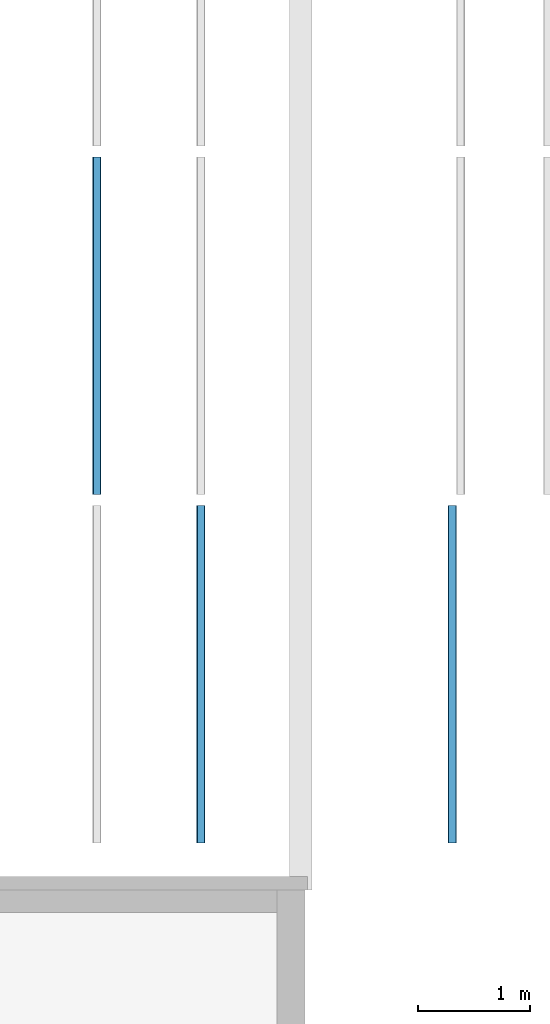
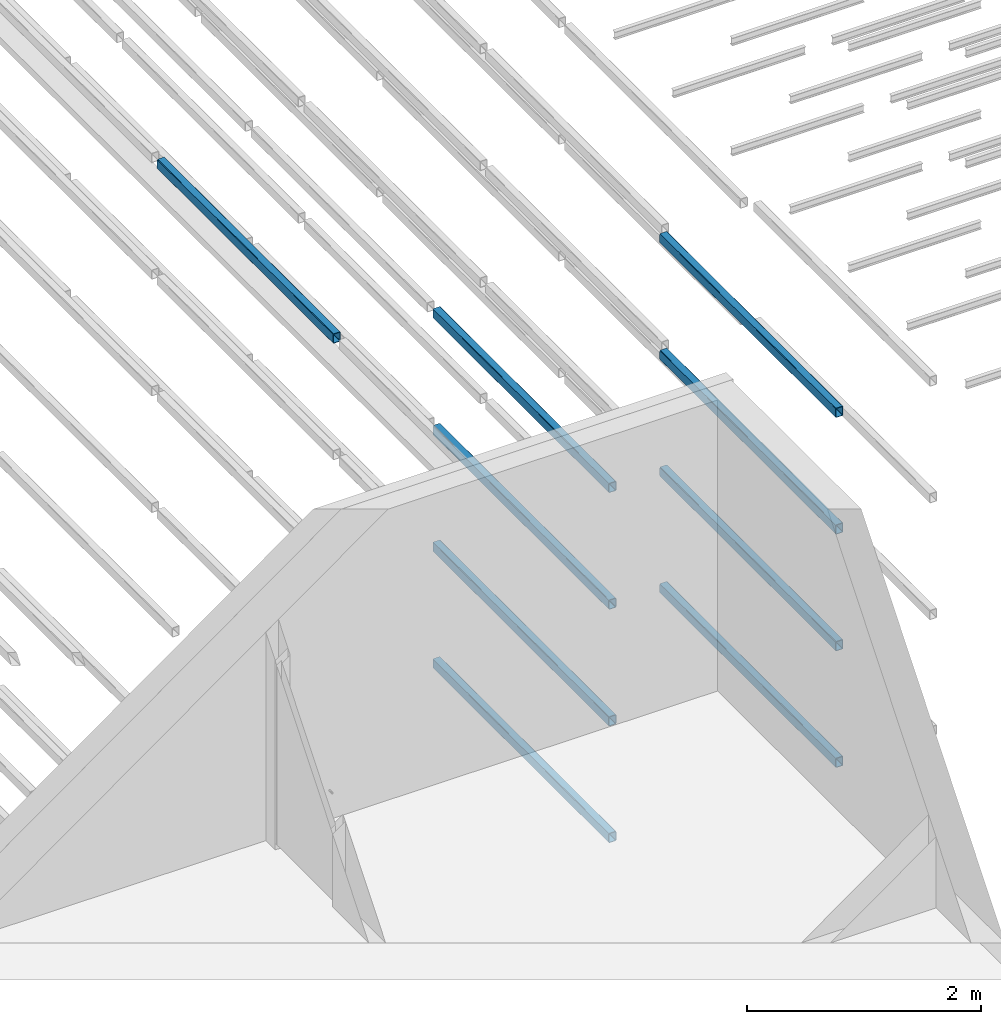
# One storey, part 31 of 290: 9 beams.
"""IFC2X3 building model written with IfcOpenShell, lengths in metres."""

from ifc_helpers import new_model, entity, si_unit, converted_unit, derived_unit, direction, frame, frame_2d, origin, place, context, subcontext, project, spatial, polyline, circle_curve, parameter, trimmed, segment, composite_curve, outline, extrude, material, type_object, element, save


model = new_model("IFC2X3")

# Units and contexts
model_context = context("Model", 3, precision=1e-05, world=origin(), true_north=direction((6.12303176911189e-17, 1.0)))
body_context = subcontext(model_context, "Body", "Model", "MODEL_VIEW")
ifc_project = project(units=[si_unit("LENGTHUNIT", "METRE"), si_unit("AREAUNIT", "SQUARE_METRE"), si_unit("VOLUMEUNIT", "CUBIC_METRE"), converted_unit("PLANEANGLEUNIT", "DEGREE", entity("IfcRatioMeasure", 0.0174532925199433), si_unit("PLANEANGLEUNIT", "RADIAN"), dimensions=[0, 0, 0, 0, 0, 0, 0]), si_unit("MASSUNIT", "GRAM", prefix="KILO"), derived_unit("MASSDENSITYUNIT", [(si_unit("MASSUNIT", "GRAM", prefix="KILO"), 1), (si_unit("LENGTHUNIT", "METRE"), -3)]), derived_unit("MOMENTOFINERTIAUNIT", [(si_unit("LENGTHUNIT", "METRE"), 4)]), si_unit("TIMEUNIT", "SECOND"), si_unit("FREQUENCYUNIT", "HERTZ"), si_unit("THERMODYNAMICTEMPERATUREUNIT", "DEGREE_CELSIUS"), derived_unit("THERMALTRANSMITTANCEUNIT", [(si_unit("MASSUNIT", "GRAM", prefix="KILO"), 1), (si_unit("THERMODYNAMICTEMPERATUREUNIT", "KELVIN"), -1), (si_unit("TIMEUNIT", "SECOND"), -3)]), derived_unit("VOLUMETRICFLOWRATEUNIT", [(si_unit("LENGTHUNIT", "METRE"), 3), (si_unit("TIMEUNIT", "SECOND"), -1)]), si_unit("ELECTRICCURRENTUNIT", "AMPERE"), si_unit("ELECTRICVOLTAGEUNIT", "VOLT"), si_unit("POWERUNIT", "WATT"), si_unit("FORCEUNIT", "NEWTON", prefix="KILO"), si_unit("ILLUMINANCEUNIT", "LUX"), si_unit("LUMINOUSFLUXUNIT", "LUMEN"), si_unit("LUMINOUSINTENSITYUNIT", "CANDELA"), derived_unit("USERDEFINED", [(si_unit("MASSUNIT", "GRAM", prefix="KILO"), -1), (si_unit("LENGTHUNIT", "METRE"), -2), (si_unit("TIMEUNIT", "SECOND"), 3), (si_unit("LUMINOUSFLUXUNIT", "LUMEN"), 1)]), derived_unit("LINEARVELOCITYUNIT", [(si_unit("LENGTHUNIT", "METRE"), 1), (si_unit("TIMEUNIT", "SECOND"), -1)]), si_unit("PRESSUREUNIT", "PASCAL"), derived_unit("USERDEFINED", [(si_unit("LENGTHUNIT", "METRE"), -2), (si_unit("MASSUNIT", "GRAM", prefix="KILO"), 1), (si_unit("TIMEUNIT", "SECOND"), -2)]), derived_unit("LINEARFORCEUNIT", [(si_unit("MASSUNIT", "GRAM", prefix="KILO"), 1), (si_unit("LENGTHUNIT", "METRE"), 1), (si_unit("TIMEUNIT", "SECOND"), -2), (si_unit("LENGTHUNIT", "METRE"), -1)]), derived_unit("PLANARFORCEUNIT", [(si_unit("MASSUNIT", "GRAM", prefix="KILO"), 1), (si_unit("LENGTHUNIT", "METRE"), 1), (si_unit("TIMEUNIT", "SECOND"), -2), (si_unit("LENGTHUNIT", "METRE"), -2)])], contexts=[model_context])

# Site, building, storey
site_placement = place(None, origin())
site = spatial("IfcSite", under=ifc_project, at=site_placement, Name="Default", CompositionType="ELEMENT")
building_placement = place(site_placement, origin())
building = spatial("IfcBuilding", under=site, at=building_placement, CompositionType="ELEMENT")
storey_placement = place(building_placement, frame((0.0, 0.0, 4.0)))
storey = spatial("IfcBuildingStorey", under=building, at=storey_placement, Name="01_OG", CompositionType="ELEMENT", Elevation=4.0)

# Beams
ifc_material = material(Name="Metall - Baustahl S235 blau")
beam_type = type_object("IfcBeamType", Name="RHS Träger (EN 10219-2):RHS 100 x 75 x 5", PredefinedType="NOTDEFINED")
beam_1_placement = place(storey_placement, frame((-178.465111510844, 24.048088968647, 0.0150000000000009), z_axis=(0.0, 0.0, 1.0), x_axis=(0.0, 1.0, 0.0)))
element("IfcBeam", 1, at=beam_1_placement, inside=storey, type_object=beam_type, material=ifc_material, Name="RHS Träger (EN 10219-2):RHS 100 x 75 x 5", ObjectType="RHS Träger (EN 10219-2):RHS 100 x 75 x 5", context=body_context, shape_type="SweptSolid", body=[
    extrude(outline(composite_curve([segment(polyline([(-0.0400000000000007, -0.0374999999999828), (0.0399999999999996, -0.0374999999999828)]), True, "CONTINUOUS"), segment(trimmed(circle_curve(frame_2d((0.0399999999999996, -0.0274999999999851), x_axis=(0.0, 1.0)), 0.01), [parameter(180.0)], [parameter(270.0)], True, "PARAMETER"), True, "CONTINUOUS"), segment(polyline([(0.0499999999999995, -0.0274999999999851), (0.0499999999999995, 0.0274999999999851)]), True, "CONTINUOUS"), segment(trimmed(circle_curve(frame_2d((0.0399999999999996, 0.0274999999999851), x_axis=(0.0, 1.0)), 0.01), [parameter(270.0)], [parameter(4.07110999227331e-13)], True, "PARAMETER"), True, "CONTINUOUS"), segment(polyline([(0.0399999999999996, 0.0375000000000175), (-0.0400000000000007, 0.0375000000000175)]), True, "CONTINUOUS"), segment(trimmed(circle_curve(frame_2d((-0.0400000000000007, 0.0274999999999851), x_axis=(0.0, 1.0)), 0.01), [parameter(360.0)], [parameter(90.0000000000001)], True, "PARAMETER"), True, "CONTINUOUS"), segment(polyline([(-0.0500000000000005, 0.0274999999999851), (-0.0500000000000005, -0.0274999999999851)]), True, "CONTINUOUS"), segment(trimmed(circle_curve(frame_2d((-0.0400000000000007, -0.0274999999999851), x_axis=(0.0, 1.0)), 0.01), [parameter(90.0000000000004)], [parameter(180.0)], True, "PARAMETER"), True, "CONTINUOUS")], self_intersect=False), holes=[composite_curve([segment(trimmed(circle_curve(frame_2d((-0.0400000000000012, 0.0274999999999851), x_axis=(0.0, 1.0)), 0.005), [parameter(360.0)], [parameter(89.9999999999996)], True, "PARAMETER"), False, "CONTINUOUS"), segment(polyline([(-0.0400000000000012, 0.0325000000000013), (0.0399999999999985, 0.0325000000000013)]), True, "CONTINUOUS"), segment(trimmed(circle_curve(frame_2d((0.0399999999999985, 0.0274999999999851), x_axis=(0.0, 1.0)), 0.005), [parameter(270.0)], [parameter(0.0)], True, "PARAMETER"), False, "CONTINUOUS"), segment(polyline([(0.0449999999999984, 0.0274999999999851), (0.0449999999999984, -0.0274999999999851)]), True, "CONTINUOUS"), segment(trimmed(circle_curve(frame_2d((0.0399999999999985, -0.0274999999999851), x_axis=(0.0, 1.0)), 0.005), [parameter(180.0)], [parameter(269.999999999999)], True, "PARAMETER"), False, "CONTINUOUS"), segment(polyline([(0.0399999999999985, -0.0325000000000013), (-0.0400000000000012, -0.0325000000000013)]), True, "CONTINUOUS"), segment(trimmed(circle_curve(frame_2d((-0.0400000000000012, -0.0274999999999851), x_axis=(0.0, 1.0)), 0.005), [parameter(90.0000000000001)], [parameter(180.0)], True, "PARAMETER"), False, "CONTINUOUS"), segment(polyline([(-0.0450000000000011, -0.0274999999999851), (-0.0450000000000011, 0.0274999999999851)]), True, "CONTINUOUS")], self_intersect=False)]), frame((9.99999999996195e-05, -0.0375000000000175, -0.0500000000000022), z_axis=(1.0, 0.0, 0.0), x_axis=(0.0, 0.0, -1.0)), (0.0, 0.0, 1.0), 2.9998),
])
beam_2_placement = place(storey_placement, frame((-178.465111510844, 24.048088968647, 1.23), z_axis=(0.0, 0.0, 1.0), x_axis=(0.0, 1.0, 0.0)))
element("IfcBeam", 2, at=beam_2_placement, inside=storey, type_object=beam_type, material=ifc_material, Name="RHS Träger (EN 10219-2):RHS 100 x 75 x 5", ObjectType="RHS Träger (EN 10219-2):RHS 100 x 75 x 5", context=body_context, shape_type="SweptSolid", body=[
    extrude(outline(composite_curve([segment(polyline([(-0.0399999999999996, -0.0374999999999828), (0.0399999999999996, -0.0374999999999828)]), True, "CONTINUOUS"), segment(trimmed(circle_curve(frame_2d((0.0399999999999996, -0.0274999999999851), x_axis=(0.0, 1.0)), 0.01), [parameter(180.0)], [parameter(270.0)], True, "PARAMETER"), True, "CONTINUOUS"), segment(polyline([(0.0500000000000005, -0.0274999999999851), (0.0500000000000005, 0.0274999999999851)]), True, "CONTINUOUS"), segment(trimmed(circle_curve(frame_2d((0.0399999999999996, 0.0274999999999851), x_axis=(0.0, 1.0)), 0.01), [parameter(270.0)], [parameter(4.07110999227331e-13)], True, "PARAMETER"), True, "CONTINUOUS"), segment(polyline([(0.0399999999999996, 0.0375000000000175), (-0.0399999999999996, 0.0375000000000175)]), True, "CONTINUOUS"), segment(trimmed(circle_curve(frame_2d((-0.0399999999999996, 0.0274999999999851), x_axis=(0.0, 1.0)), 0.01), [parameter(360.0)], [parameter(90.0000000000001)], True, "PARAMETER"), True, "CONTINUOUS"), segment(polyline([(-0.0499999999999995, 0.0274999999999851), (-0.0499999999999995, -0.0274999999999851)]), True, "CONTINUOUS"), segment(trimmed(circle_curve(frame_2d((-0.0399999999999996, -0.0274999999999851), x_axis=(0.0, 1.0)), 0.01), [parameter(90.0000000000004)], [parameter(180.0)], True, "PARAMETER"), True, "CONTINUOUS")], self_intersect=False), holes=[composite_curve([segment(trimmed(circle_curve(frame_2d((-0.0400000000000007, 0.0274999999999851), x_axis=(0.0, 1.0)), 0.005), [parameter(360.0)], [parameter(89.9999999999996)], True, "PARAMETER"), False, "CONTINUOUS"), segment(polyline([(-0.0400000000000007, 0.0325000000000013), (0.0399999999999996, 0.0325000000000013)]), True, "CONTINUOUS"), segment(trimmed(circle_curve(frame_2d((0.0399999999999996, 0.0274999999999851), x_axis=(0.0, 1.0)), 0.005), [parameter(270.0)], [parameter(0.0)], True, "PARAMETER"), False, "CONTINUOUS"), segment(polyline([(0.0449999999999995, 0.0274999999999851), (0.0449999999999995, -0.0274999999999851)]), True, "CONTINUOUS"), segment(trimmed(circle_curve(frame_2d((0.0399999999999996, -0.0274999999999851), x_axis=(0.0, 1.0)), 0.005), [parameter(180.0)], [parameter(269.999999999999)], True, "PARAMETER"), False, "CONTINUOUS"), segment(polyline([(0.0399999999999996, -0.0325000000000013), (-0.0400000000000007, -0.0325000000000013)]), True, "CONTINUOUS"), segment(trimmed(circle_curve(frame_2d((-0.0400000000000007, -0.0274999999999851), x_axis=(0.0, 1.0)), 0.005), [parameter(90.0000000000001)], [parameter(180.0)], True, "PARAMETER"), False, "CONTINUOUS"), segment(polyline([(-0.0450000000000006, -0.0274999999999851), (-0.0450000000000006, 0.0274999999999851)]), True, "CONTINUOUS")], self_intersect=False)]), frame((9.99999999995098e-05, -0.0375000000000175, -0.0500000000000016), z_axis=(1.0, 0.0, 0.0), x_axis=(0.0, 0.0, -1.0)), (0.0, 0.0, 1.0), 2.9998),
])
beam_3_placement = place(storey_placement, frame((-178.465111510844, 24.048088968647, 2.445), z_axis=(0.0, 0.0, 1.0), x_axis=(0.0, 1.0, 0.0)))
element("IfcBeam", 3, at=beam_3_placement, inside=storey, type_object=beam_type, material=ifc_material, Name="RHS Träger (EN 10219-2):RHS 100 x 75 x 5", ObjectType="RHS Träger (EN 10219-2):RHS 100 x 75 x 5", context=body_context, shape_type="SweptSolid", body=[
    extrude(outline(composite_curve([segment(polyline([(-0.0399999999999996, -0.0374999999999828), (0.0399999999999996, -0.0374999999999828)]), True, "CONTINUOUS"), segment(trimmed(circle_curve(frame_2d((0.0399999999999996, -0.0274999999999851), x_axis=(0.0, 1.0)), 0.01), [parameter(180.0)], [parameter(270.0)], True, "PARAMETER"), True, "CONTINUOUS"), segment(polyline([(0.0500000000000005, -0.0274999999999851), (0.0500000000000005, 0.0274999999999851)]), True, "CONTINUOUS"), segment(trimmed(circle_curve(frame_2d((0.0399999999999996, 0.0274999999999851), x_axis=(0.0, 1.0)), 0.01), [parameter(270.0)], [parameter(4.07110999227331e-13)], True, "PARAMETER"), True, "CONTINUOUS"), segment(polyline([(0.0399999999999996, 0.0375000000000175), (-0.0399999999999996, 0.0375000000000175)]), True, "CONTINUOUS"), segment(trimmed(circle_curve(frame_2d((-0.0399999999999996, 0.0274999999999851), x_axis=(0.0, 1.0)), 0.01), [parameter(360.0)], [parameter(90.0000000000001)], True, "PARAMETER"), True, "CONTINUOUS"), segment(polyline([(-0.0499999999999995, 0.0274999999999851), (-0.0499999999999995, -0.0274999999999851)]), True, "CONTINUOUS"), segment(trimmed(circle_curve(frame_2d((-0.0399999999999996, -0.0274999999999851), x_axis=(0.0, 1.0)), 0.01), [parameter(90.0000000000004)], [parameter(180.0)], True, "PARAMETER"), True, "CONTINUOUS")], self_intersect=False), holes=[composite_curve([segment(trimmed(circle_curve(frame_2d((-0.0400000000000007, 0.0274999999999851), x_axis=(0.0, 1.0)), 0.005), [parameter(360.0)], [parameter(89.9999999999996)], True, "PARAMETER"), False, "CONTINUOUS"), segment(polyline([(-0.0400000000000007, 0.0325000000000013), (0.0399999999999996, 0.0325000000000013)]), True, "CONTINUOUS"), segment(trimmed(circle_curve(frame_2d((0.0399999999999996, 0.0274999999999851), x_axis=(0.0, 1.0)), 0.005), [parameter(270.0)], [parameter(0.0)], True, "PARAMETER"), False, "CONTINUOUS"), segment(polyline([(0.0449999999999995, 0.0274999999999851), (0.0449999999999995, -0.0274999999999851)]), True, "CONTINUOUS"), segment(trimmed(circle_curve(frame_2d((0.0399999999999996, -0.0274999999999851), x_axis=(0.0, 1.0)), 0.005), [parameter(180.0)], [parameter(269.999999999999)], True, "PARAMETER"), False, "CONTINUOUS"), segment(polyline([(0.0399999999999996, -0.0325000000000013), (-0.0400000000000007, -0.0325000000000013)]), True, "CONTINUOUS"), segment(trimmed(circle_curve(frame_2d((-0.0400000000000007, -0.0274999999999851), x_axis=(0.0, 1.0)), 0.005), [parameter(90.0000000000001)], [parameter(180.0)], True, "PARAMETER"), False, "CONTINUOUS"), segment(polyline([(-0.0450000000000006, -0.0274999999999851), (-0.0450000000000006, 0.0274999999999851)]), True, "CONTINUOUS")], self_intersect=False)]), frame((9.99999999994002e-05, -0.0375000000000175, -0.0500000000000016), z_axis=(1.0, 0.0, 0.0), x_axis=(0.0, 0.0, -1.0)), (0.0, 0.0, 1.0), 2.9998),
])
beam_4_placement = place(storey_placement, frame((-179.315111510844, 27.148088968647, 2.445), z_axis=(0.0, 0.0, 1.0), x_axis=(0.0, 1.0, 0.0)))
element("IfcBeam", 4, at=beam_4_placement, inside=storey, type_object=beam_type, material=ifc_material, Name="RHS Träger (EN 10219-2):RHS 100 x 75 x 5", ObjectType="RHS Träger (EN 10219-2):RHS 100 x 75 x 5", context=body_context, shape_type="SweptSolid", body=[
    extrude(outline(composite_curve([segment(trimmed(circle_curve(frame_2d((-0.0274999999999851, -0.0399999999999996), x_axis=(1.0, 0.0)), 0.01), [parameter(180.0)], [parameter(270.0)], True, "PARAMETER"), True, "CONTINUOUS"), segment(polyline([(-0.0274999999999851, -0.0499999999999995), (0.0274999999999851, -0.0499999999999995)]), True, "CONTINUOUS"), segment(trimmed(circle_curve(frame_2d((0.0274999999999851, -0.0399999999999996), x_axis=(1.0, 0.0)), 0.01), [parameter(270.0)], [parameter(5.08888749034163e-14)], True, "PARAMETER"), True, "CONTINUOUS"), segment(polyline([(0.0375000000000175, -0.0399999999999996), (0.0375000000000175, 0.0399999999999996)]), True, "CONTINUOUS"), segment(trimmed(circle_curve(frame_2d((0.0274999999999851, 0.0399999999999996), x_axis=(1.0, 0.0)), 0.01), [parameter(360.0)], [parameter(89.9999999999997)], True, "PARAMETER"), True, "CONTINUOUS"), segment(polyline([(0.0274999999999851, 0.0500000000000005), (-0.0274999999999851, 0.0500000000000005)]), True, "CONTINUOUS"), segment(trimmed(circle_curve(frame_2d((-0.0274999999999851, 0.0399999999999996), x_axis=(1.0, 0.0)), 0.01), [parameter(90.0000000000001)], [parameter(180.0)], True, "PARAMETER"), True, "CONTINUOUS"), segment(polyline([(-0.0374999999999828, 0.0399999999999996), (-0.0374999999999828, -0.0399999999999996)]), True, "CONTINUOUS")], self_intersect=False), holes=[composite_curve([segment(polyline([(0.0274999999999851, -0.0450000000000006), (-0.0274999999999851, -0.0450000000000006)]), True, "CONTINUOUS"), segment(trimmed(circle_curve(frame_2d((-0.0274999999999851, -0.0400000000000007), x_axis=(1.0, 0.0)), 0.005), [parameter(180.0)], [parameter(270.0)], True, "PARAMETER"), False, "CONTINUOUS"), segment(polyline([(-0.0325000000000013, -0.0400000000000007), (-0.0325000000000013, 0.0399999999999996)]), True, "CONTINUOUS"), segment(trimmed(circle_curve(frame_2d((-0.0274999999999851, 0.0399999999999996), x_axis=(1.0, 0.0)), 0.005), [parameter(90.0000000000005)], [parameter(180.0)], True, "PARAMETER"), False, "CONTINUOUS"), segment(polyline([(-0.0274999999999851, 0.0449999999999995), (0.0274999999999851, 0.0449999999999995)]), True, "CONTINUOUS"), segment(trimmed(circle_curve(frame_2d((0.0274999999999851, 0.0399999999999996), x_axis=(1.0, 0.0)), 0.005), [parameter(0.0)], [parameter(90.0000000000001)], True, "PARAMETER"), False, "CONTINUOUS"), segment(polyline([(0.0325000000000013, 0.0399999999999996), (0.0325000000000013, -0.0400000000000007)]), True, "CONTINUOUS"), segment(trimmed(circle_curve(frame_2d((0.0274999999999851, -0.0400000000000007), x_axis=(1.0, 0.0)), 0.005), [parameter(270.0)], [parameter(4.07110999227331e-13)], True, "PARAMETER"), False, "CONTINUOUS")], self_intersect=False)]), frame((9.99999999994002e-05, 0.0375000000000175, -0.0500000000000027), z_axis=(1.0, 0.0, 0.0), x_axis=(0.0, -1.0, 0.0)), (0.0, 0.0, 1.0), 2.9998),
])
beam_5_placement = place(storey_placement, frame((-178.465111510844, 24.048088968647, -1.2), z_axis=(0.0, 0.0, 1.0), x_axis=(0.0, 1.0, 0.0)))
element("IfcBeam", 5, at=beam_5_placement, inside=storey, type_object=beam_type, material=ifc_material, Name="RHS Träger (EN 10219-2):RHS 100 x 75 x 5", ObjectType="RHS Träger (EN 10219-2):RHS 100 x 75 x 5", context=body_context, shape_type="SweptSolid", body=[
    extrude(outline(composite_curve([segment(polyline([(-0.0400000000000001, -0.0374999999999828), (0.0400000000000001, -0.0374999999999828)]), True, "CONTINUOUS"), segment(trimmed(circle_curve(frame_2d((0.0400000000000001, -0.0274999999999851), x_axis=(0.0, 1.0)), 0.01), [parameter(180.0)], [parameter(270.0)], True, "PARAMETER"), True, "CONTINUOUS"), segment(polyline([(0.05, -0.0274999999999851), (0.05, 0.0274999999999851)]), True, "CONTINUOUS"), segment(trimmed(circle_curve(frame_2d((0.0400000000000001, 0.0274999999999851), x_axis=(0.0, 1.0)), 0.01), [parameter(270.0)], [parameter(4.07110999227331e-13)], True, "PARAMETER"), True, "CONTINUOUS"), segment(polyline([(0.0400000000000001, 0.0375000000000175), (-0.0400000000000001, 0.0375000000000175)]), True, "CONTINUOUS"), segment(trimmed(circle_curve(frame_2d((-0.0400000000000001, 0.0274999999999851), x_axis=(0.0, 1.0)), 0.01), [parameter(360.0)], [parameter(90.0000000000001)], True, "PARAMETER"), True, "CONTINUOUS"), segment(polyline([(-0.05, 0.0274999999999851), (-0.05, -0.0274999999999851)]), True, "CONTINUOUS"), segment(trimmed(circle_curve(frame_2d((-0.0400000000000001, -0.0274999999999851), x_axis=(0.0, 1.0)), 0.01), [parameter(90.0000000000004)], [parameter(180.0)], True, "PARAMETER"), True, "CONTINUOUS")], self_intersect=False), holes=[composite_curve([segment(trimmed(circle_curve(frame_2d((-0.0400000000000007, 0.0274999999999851), x_axis=(0.0, 1.0)), 0.005), [parameter(360.0)], [parameter(89.9999999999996)], True, "PARAMETER"), False, "CONTINUOUS"), segment(polyline([(-0.0400000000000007, 0.0325000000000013), (0.039999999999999, 0.0325000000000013)]), True, "CONTINUOUS"), segment(trimmed(circle_curve(frame_2d((0.039999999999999, 0.0274999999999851), x_axis=(0.0, 1.0)), 0.005), [parameter(270.0)], [parameter(0.0)], True, "PARAMETER"), False, "CONTINUOUS"), segment(polyline([(0.044999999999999, 0.0274999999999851), (0.044999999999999, -0.0274999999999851)]), True, "CONTINUOUS"), segment(trimmed(circle_curve(frame_2d((0.039999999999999, -0.0274999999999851), x_axis=(0.0, 1.0)), 0.005), [parameter(180.0)], [parameter(269.999999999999)], True, "PARAMETER"), False, "CONTINUOUS"), segment(polyline([(0.039999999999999, -0.0325000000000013), (-0.0400000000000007, -0.0325000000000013)]), True, "CONTINUOUS"), segment(trimmed(circle_curve(frame_2d((-0.0400000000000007, -0.0274999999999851), x_axis=(0.0, 1.0)), 0.005), [parameter(90.0000000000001)], [parameter(180.0)], True, "PARAMETER"), False, "CONTINUOUS"), segment(polyline([(-0.0450000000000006, -0.0274999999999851), (-0.0450000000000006, 0.0274999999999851)]), True, "CONTINUOUS")], self_intersect=False)]), frame((9.99999999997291e-05, -0.0375000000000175, -0.0500000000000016), z_axis=(1.0, 0.0, 0.0), x_axis=(0.0, 0.0, -1.0)), (0.0, 0.0, 1.0), 2.9998),
])
beam_6_placement = place(storey_placement, frame((-176.155111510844, 24.048088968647, 0.0150000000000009), z_axis=(0.0, 0.0, 1.0), x_axis=(0.0, 1.0, 0.0)))
element("IfcBeam", 6, at=beam_6_placement, inside=storey, type_object=beam_type, material=ifc_material, Name="RHS Träger (EN 10219-2):RHS 100 x 75 x 5", ObjectType="RHS Träger (EN 10219-2):RHS 100 x 75 x 5", context=body_context, shape_type="SweptSolid", body=[
    extrude(outline(composite_curve([segment(trimmed(circle_curve(frame_2d((-0.0274999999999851, -0.0400000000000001), x_axis=(1.0, 0.0)), 0.01), [parameter(180.0)], [parameter(270.0)], True, "PARAMETER"), True, "CONTINUOUS"), segment(polyline([(-0.0274999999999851, -0.05), (0.0274999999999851, -0.05)]), True, "CONTINUOUS"), segment(trimmed(circle_curve(frame_2d((0.0274999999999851, -0.0400000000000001), x_axis=(1.0, 0.0)), 0.01), [parameter(270.0)], [parameter(5.08888749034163e-14)], True, "PARAMETER"), True, "CONTINUOUS"), segment(polyline([(0.0375000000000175, -0.0400000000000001), (0.0375000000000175, 0.0400000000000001)]), True, "CONTINUOUS"), segment(trimmed(circle_curve(frame_2d((0.0274999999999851, 0.0400000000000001), x_axis=(1.0, 0.0)), 0.01), [parameter(360.0)], [parameter(89.9999999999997)], True, "PARAMETER"), True, "CONTINUOUS"), segment(polyline([(0.0274999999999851, 0.05), (-0.0274999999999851, 0.05)]), True, "CONTINUOUS"), segment(trimmed(circle_curve(frame_2d((-0.0274999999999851, 0.0400000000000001), x_axis=(1.0, 0.0)), 0.01), [parameter(90.0000000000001)], [parameter(180.0)], True, "PARAMETER"), True, "CONTINUOUS"), segment(polyline([(-0.0374999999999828, 0.0400000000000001), (-0.0374999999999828, -0.0400000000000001)]), True, "CONTINUOUS")], self_intersect=False), holes=[composite_curve([segment(polyline([(0.0274999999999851, -0.0450000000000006), (-0.0274999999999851, -0.0450000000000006)]), True, "CONTINUOUS"), segment(trimmed(circle_curve(frame_2d((-0.0274999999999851, -0.0400000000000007), x_axis=(1.0, 0.0)), 0.005), [parameter(180.0)], [parameter(270.0)], True, "PARAMETER"), False, "CONTINUOUS"), segment(polyline([(-0.0325000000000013, -0.0400000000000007), (-0.0325000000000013, 0.039999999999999)]), True, "CONTINUOUS"), segment(trimmed(circle_curve(frame_2d((-0.0274999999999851, 0.039999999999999), x_axis=(1.0, 0.0)), 0.005), [parameter(90.0000000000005)], [parameter(180.0)], True, "PARAMETER"), False, "CONTINUOUS"), segment(polyline([(-0.0274999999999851, 0.044999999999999), (0.0274999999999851, 0.044999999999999)]), True, "CONTINUOUS"), segment(trimmed(circle_curve(frame_2d((0.0274999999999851, 0.039999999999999), x_axis=(1.0, 0.0)), 0.005), [parameter(0.0)], [parameter(90.0000000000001)], True, "PARAMETER"), False, "CONTINUOUS"), segment(polyline([(0.0325000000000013, 0.039999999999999), (0.0325000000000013, -0.0400000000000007)]), True, "CONTINUOUS"), segment(trimmed(circle_curve(frame_2d((0.0274999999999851, -0.0400000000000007), x_axis=(1.0, 0.0)), 0.005), [parameter(270.0)], [parameter(4.07110999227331e-13)], True, "PARAMETER"), False, "CONTINUOUS")], self_intersect=False)]), frame((9.99999999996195e-05, 0.0375000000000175, -0.0500000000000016), z_axis=(1.0, 0.0, 0.0), x_axis=(0.0, -1.0, 0.0)), (0.0, 0.0, 1.0), 2.9998),
])
beam_7_placement = place(storey_placement, frame((-176.155111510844, 24.048088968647, 1.23), z_axis=(0.0, 0.0, 1.0), x_axis=(0.0, 1.0, 0.0)))
element("IfcBeam", 7, at=beam_7_placement, inside=storey, type_object=beam_type, material=ifc_material, Name="RHS Träger (EN 10219-2):RHS 100 x 75 x 5", ObjectType="RHS Träger (EN 10219-2):RHS 100 x 75 x 5", context=body_context, shape_type="SweptSolid", body=[
    extrude(outline(composite_curve([segment(trimmed(circle_curve(frame_2d((-0.0274999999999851, -0.0399999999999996), x_axis=(1.0, 0.0)), 0.01), [parameter(180.0)], [parameter(270.0)], True, "PARAMETER"), True, "CONTINUOUS"), segment(polyline([(-0.0274999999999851, -0.0499999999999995), (0.0274999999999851, -0.0499999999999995)]), True, "CONTINUOUS"), segment(trimmed(circle_curve(frame_2d((0.0274999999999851, -0.0399999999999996), x_axis=(1.0, 0.0)), 0.01), [parameter(270.0)], [parameter(5.08888749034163e-14)], True, "PARAMETER"), True, "CONTINUOUS"), segment(polyline([(0.0375000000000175, -0.0399999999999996), (0.0375000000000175, 0.0399999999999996)]), True, "CONTINUOUS"), segment(trimmed(circle_curve(frame_2d((0.0274999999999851, 0.0399999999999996), x_axis=(1.0, 0.0)), 0.01), [parameter(360.0)], [parameter(89.9999999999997)], True, "PARAMETER"), True, "CONTINUOUS"), segment(polyline([(0.0274999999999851, 0.0500000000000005), (-0.0274999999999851, 0.0500000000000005)]), True, "CONTINUOUS"), segment(trimmed(circle_curve(frame_2d((-0.0274999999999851, 0.0399999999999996), x_axis=(1.0, 0.0)), 0.01), [parameter(90.0000000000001)], [parameter(180.0)], True, "PARAMETER"), True, "CONTINUOUS"), segment(polyline([(-0.0374999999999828, 0.0399999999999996), (-0.0374999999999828, -0.0399999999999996)]), True, "CONTINUOUS")], self_intersect=False), holes=[composite_curve([segment(polyline([(0.0274999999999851, -0.0450000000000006), (-0.0274999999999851, -0.0450000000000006)]), True, "CONTINUOUS"), segment(trimmed(circle_curve(frame_2d((-0.0274999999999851, -0.0400000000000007), x_axis=(1.0, 0.0)), 0.005), [parameter(180.0)], [parameter(270.0)], True, "PARAMETER"), False, "CONTINUOUS"), segment(polyline([(-0.0325000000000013, -0.0400000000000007), (-0.0325000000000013, 0.0399999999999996)]), True, "CONTINUOUS"), segment(trimmed(circle_curve(frame_2d((-0.0274999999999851, 0.0399999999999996), x_axis=(1.0, 0.0)), 0.005), [parameter(90.0000000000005)], [parameter(180.0)], True, "PARAMETER"), False, "CONTINUOUS"), segment(polyline([(-0.0274999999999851, 0.0449999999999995), (0.0274999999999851, 0.0449999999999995)]), True, "CONTINUOUS"), segment(trimmed(circle_curve(frame_2d((0.0274999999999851, 0.0399999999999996), x_axis=(1.0, 0.0)), 0.005), [parameter(0.0)], [parameter(90.0000000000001)], True, "PARAMETER"), False, "CONTINUOUS"), segment(polyline([(0.0325000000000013, 0.0399999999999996), (0.0325000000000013, -0.0400000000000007)]), True, "CONTINUOUS"), segment(trimmed(circle_curve(frame_2d((0.0274999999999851, -0.0400000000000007), x_axis=(1.0, 0.0)), 0.005), [parameter(270.0)], [parameter(4.07110999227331e-13)], True, "PARAMETER"), False, "CONTINUOUS")], self_intersect=False)]), frame((9.99999999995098e-05, 0.0375000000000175, -0.0500000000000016), z_axis=(1.0, 0.0, 0.0), x_axis=(0.0, -1.0, 0.0)), (0.0, 0.0, 1.0), 2.9998),
])
beam_8_placement = place(storey_placement, frame((-176.155111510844, 24.048088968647, 2.445), z_axis=(0.0, 0.0, 1.0), x_axis=(0.0, 1.0, 0.0)))
element("IfcBeam", 8, at=beam_8_placement, inside=storey, type_object=beam_type, material=ifc_material, Name="RHS Träger (EN 10219-2):RHS 100 x 75 x 5", ObjectType="RHS Träger (EN 10219-2):RHS 100 x 75 x 5", context=body_context, shape_type="SweptSolid", body=[
    extrude(outline(composite_curve([segment(trimmed(circle_curve(frame_2d((-0.0274999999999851, -0.0399999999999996), x_axis=(1.0, 0.0)), 0.01), [parameter(180.0)], [parameter(270.0)], True, "PARAMETER"), True, "CONTINUOUS"), segment(polyline([(-0.0274999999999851, -0.0499999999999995), (0.0274999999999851, -0.0499999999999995)]), True, "CONTINUOUS"), segment(trimmed(circle_curve(frame_2d((0.0274999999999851, -0.0399999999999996), x_axis=(1.0, 0.0)), 0.01), [parameter(270.0)], [parameter(5.08888749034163e-14)], True, "PARAMETER"), True, "CONTINUOUS"), segment(polyline([(0.0375000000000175, -0.0399999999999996), (0.0375000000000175, 0.0399999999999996)]), True, "CONTINUOUS"), segment(trimmed(circle_curve(frame_2d((0.0274999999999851, 0.0399999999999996), x_axis=(1.0, 0.0)), 0.01), [parameter(360.0)], [parameter(89.9999999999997)], True, "PARAMETER"), True, "CONTINUOUS"), segment(polyline([(0.0274999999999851, 0.0500000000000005), (-0.0274999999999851, 0.0500000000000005)]), True, "CONTINUOUS"), segment(trimmed(circle_curve(frame_2d((-0.0274999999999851, 0.0399999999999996), x_axis=(1.0, 0.0)), 0.01), [parameter(90.0000000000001)], [parameter(180.0)], True, "PARAMETER"), True, "CONTINUOUS"), segment(polyline([(-0.0374999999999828, 0.0399999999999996), (-0.0374999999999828, -0.0399999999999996)]), True, "CONTINUOUS")], self_intersect=False), holes=[composite_curve([segment(polyline([(0.0274999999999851, -0.0450000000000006), (-0.0274999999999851, -0.0450000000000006)]), True, "CONTINUOUS"), segment(trimmed(circle_curve(frame_2d((-0.0274999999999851, -0.0400000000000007), x_axis=(1.0, 0.0)), 0.005), [parameter(180.0)], [parameter(270.0)], True, "PARAMETER"), False, "CONTINUOUS"), segment(polyline([(-0.0325000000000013, -0.0400000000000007), (-0.0325000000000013, 0.0399999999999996)]), True, "CONTINUOUS"), segment(trimmed(circle_curve(frame_2d((-0.0274999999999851, 0.0399999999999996), x_axis=(1.0, 0.0)), 0.005), [parameter(90.0000000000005)], [parameter(180.0)], True, "PARAMETER"), False, "CONTINUOUS"), segment(polyline([(-0.0274999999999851, 0.0449999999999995), (0.0274999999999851, 0.0449999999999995)]), True, "CONTINUOUS"), segment(trimmed(circle_curve(frame_2d((0.0274999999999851, 0.0399999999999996), x_axis=(1.0, 0.0)), 0.005), [parameter(0.0)], [parameter(90.0000000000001)], True, "PARAMETER"), False, "CONTINUOUS"), segment(polyline([(0.0325000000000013, 0.0399999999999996), (0.0325000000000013, -0.0400000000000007)]), True, "CONTINUOUS"), segment(trimmed(circle_curve(frame_2d((0.0274999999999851, -0.0400000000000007), x_axis=(1.0, 0.0)), 0.005), [parameter(270.0)], [parameter(4.07110999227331e-13)], True, "PARAMETER"), False, "CONTINUOUS")], self_intersect=False)]), frame((9.99999999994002e-05, 0.0375000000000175, -0.0500000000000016), z_axis=(1.0, 0.0, 0.0), x_axis=(0.0, -1.0, 0.0)), (0.0, 0.0, 1.0), 2.9998),
])
beam_9_placement = place(storey_placement, frame((-176.155111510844, 24.048088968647, -1.2), z_axis=(0.0, 0.0, 1.0), x_axis=(0.0, 1.0, 0.0)))
element("IfcBeam", 9, at=beam_9_placement, inside=storey, type_object=beam_type, material=ifc_material, Name="RHS Träger (EN 10219-2):RHS 100 x 75 x 5", ObjectType="RHS Träger (EN 10219-2):RHS 100 x 75 x 5", context=body_context, shape_type="SweptSolid", body=[
    extrude(outline(composite_curve([segment(trimmed(circle_curve(frame_2d((-0.0274999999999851, -0.0400000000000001), x_axis=(1.0, 0.0)), 0.01), [parameter(180.0)], [parameter(270.0)], True, "PARAMETER"), True, "CONTINUOUS"), segment(polyline([(-0.0274999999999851, -0.05), (0.0274999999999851, -0.05)]), True, "CONTINUOUS"), segment(trimmed(circle_curve(frame_2d((0.0274999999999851, -0.0400000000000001), x_axis=(1.0, 0.0)), 0.01), [parameter(270.0)], [parameter(5.08888749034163e-14)], True, "PARAMETER"), True, "CONTINUOUS"), segment(polyline([(0.0375000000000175, -0.0400000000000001), (0.0375000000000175, 0.0400000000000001)]), True, "CONTINUOUS"), segment(trimmed(circle_curve(frame_2d((0.0274999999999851, 0.0400000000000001), x_axis=(1.0, 0.0)), 0.01), [parameter(360.0)], [parameter(89.9999999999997)], True, "PARAMETER"), True, "CONTINUOUS"), segment(polyline([(0.0274999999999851, 0.05), (-0.0274999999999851, 0.05)]), True, "CONTINUOUS"), segment(trimmed(circle_curve(frame_2d((-0.0274999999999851, 0.0400000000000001), x_axis=(1.0, 0.0)), 0.01), [parameter(90.0000000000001)], [parameter(180.0)], True, "PARAMETER"), True, "CONTINUOUS"), segment(polyline([(-0.0374999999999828, 0.0400000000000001), (-0.0374999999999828, -0.0400000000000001)]), True, "CONTINUOUS")], self_intersect=False), holes=[composite_curve([segment(polyline([(0.0274999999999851, -0.0450000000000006), (-0.0274999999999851, -0.0450000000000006)]), True, "CONTINUOUS"), segment(trimmed(circle_curve(frame_2d((-0.0274999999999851, -0.0400000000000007), x_axis=(1.0, 0.0)), 0.005), [parameter(180.0)], [parameter(270.0)], True, "PARAMETER"), False, "CONTINUOUS"), segment(polyline([(-0.0325000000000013, -0.0400000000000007), (-0.0325000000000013, 0.039999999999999)]), True, "CONTINUOUS"), segment(trimmed(circle_curve(frame_2d((-0.0274999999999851, 0.039999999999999), x_axis=(1.0, 0.0)), 0.005), [parameter(90.0000000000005)], [parameter(180.0)], True, "PARAMETER"), False, "CONTINUOUS"), segment(polyline([(-0.0274999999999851, 0.044999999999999), (0.0274999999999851, 0.044999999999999)]), True, "CONTINUOUS"), segment(trimmed(circle_curve(frame_2d((0.0274999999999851, 0.039999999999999), x_axis=(1.0, 0.0)), 0.005), [parameter(0.0)], [parameter(90.0000000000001)], True, "PARAMETER"), False, "CONTINUOUS"), segment(polyline([(0.0325000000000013, 0.039999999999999), (0.0325000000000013, -0.0400000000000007)]), True, "CONTINUOUS"), segment(trimmed(circle_curve(frame_2d((0.0274999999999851, -0.0400000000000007), x_axis=(1.0, 0.0)), 0.005), [parameter(270.0)], [parameter(4.07110999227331e-13)], True, "PARAMETER"), False, "CONTINUOUS")], self_intersect=False)]), frame((9.99999999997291e-05, 0.0375000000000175, -0.0500000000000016), z_axis=(1.0, 0.0, 0.0), x_axis=(0.0, -1.0, 0.0)), (0.0, 0.0, 1.0), 2.9998),
])

save(model, "model.ifc")
